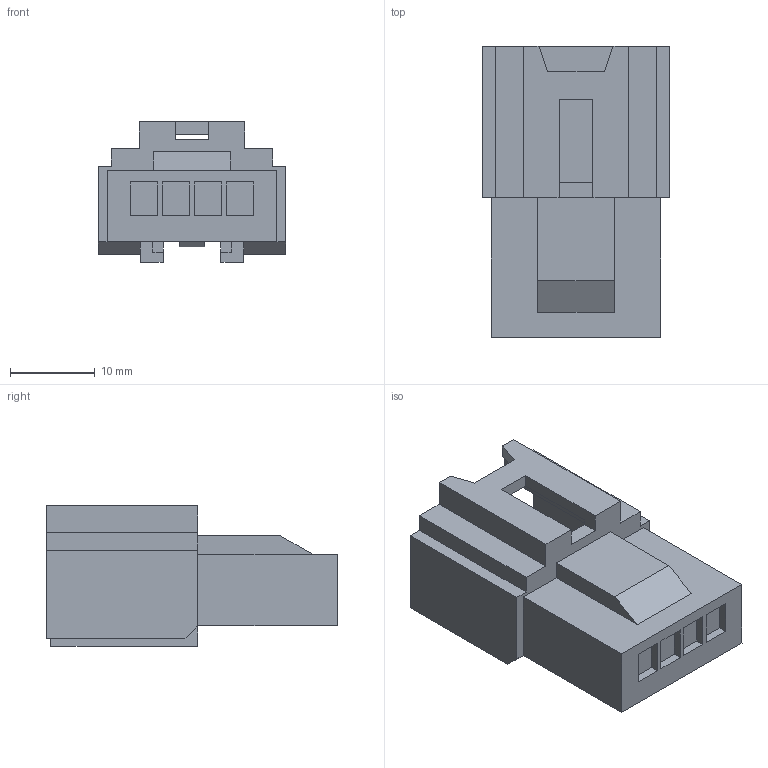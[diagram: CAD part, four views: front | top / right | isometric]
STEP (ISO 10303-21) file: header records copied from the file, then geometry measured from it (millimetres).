
FILE_DESCRIPTION(('CATIA V5 STEP','CAx-IF Rec.Pracs.--- Model Styling and Organization---1.4--- 2014-01-23'),'2;1');
FILE_NAME('\\fss02.ad.sws.co.jp\fs100016\第3設計部\共有\コネクタ第1Gr\【91】一時保管\★カタログ用参考資料\簡易３D\stp_送付用\6098-6966.stp','2024-10-07T06:44:02+00:00',('none'),('none'),'CATIA Version 5-6 Release 2018 SP4','CATIA V5 STEP AP214','none');
FILE_SCHEMA(('AUTOMOTIVE_DESIGN { 1 0 10303 214 1 1 1 1 }'));
Length unit declared in the file: millimetre
Products named in the file (1): 6098-6966
Bounding box: 22.1 x 34.25 x 16.55 mm (x, y, z)
Volume: 5254.2 mm3; surface area: 4168.6 mm2
Topology: 1 solids, 1 shells, 115 faces, 314 edges, 208 vertices
Faces by surface type: plane 113, bspline 2
Entity records: 3422 total; most frequent: CARTESIAN_POINT 632, ORIENTED_EDGE 628, DIRECTION 470, EDGE_CURVE 314, VECTOR 308, LINE 308, VERTEX_POINT 208, EDGE_LOOP 124
